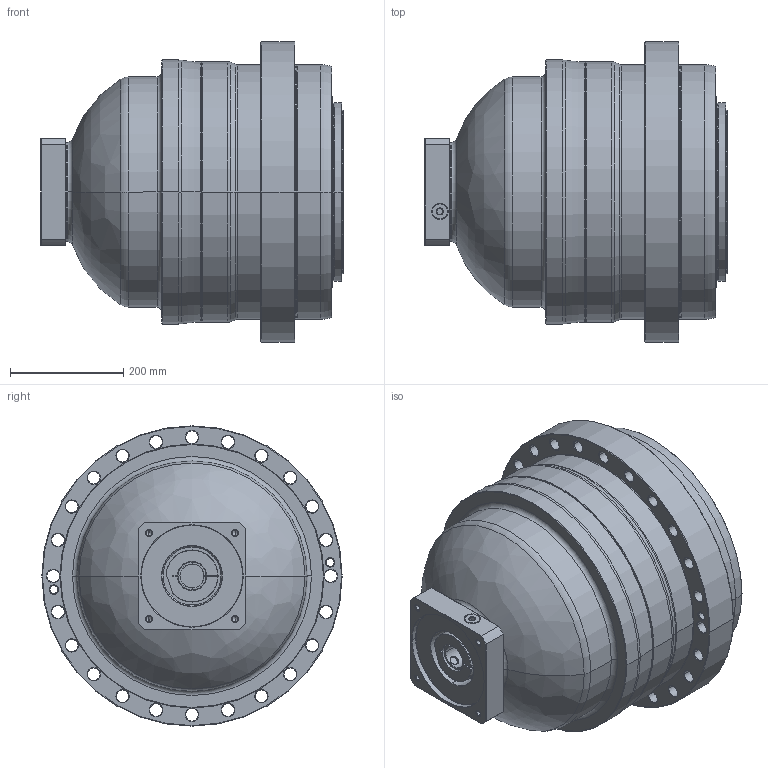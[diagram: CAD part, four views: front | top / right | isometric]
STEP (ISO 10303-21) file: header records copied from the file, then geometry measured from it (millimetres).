
FILE_DESCRIPTION((''),'2;1');
FILE_NAME('AP450_3ST_42-P0409A00201_ASM','2018-06-08T',('d01226'),(''),'PRO/ENGINEER BY PARAMETRIC TECHNOLOGY CORPORATION, 2008410','PRO/ENGINEER BY PARAMETRIC TECHNOLOGY CORPORATION, 2008410','');
FILE_SCHEMA(('CONFIG_CONTROL_DESIGN'));
Length unit declared in the file: millimetre
Products named in the file (9): P0276201003; P0357201103; P1366A00201; P0503A00012; P0912702001; P1222200001; P0409A00201; 21711422019; AP450_3ST_42-P0409A00201_ASM
Assembly tree (8 placements, depth 2):
  AP450_3ST_42-P0409A00201_ASM
    P0276201003
    P0357201103
    P1366A00201
    P0503A00012
    P0912702001
    P1222200001
    P0409A00201
    21711422019
Bounding box: 533.5 x 530 x 530 mm (x, y, z)
Volume: 53111976.1 mm3; surface area: 2066917.2 mm2
Topology: 9 solids, 31 shells, 619 faces, 1425 edges, 866 vertices
Faces by surface type: cylinder 246, cone 180, plane 97, torus 82, bspline 14
Entity records: 22387 total; most frequent: CARTESIAN_POINT 7596, DIRECTION 3409, ORIENTED_EDGE 2746, AXIS2_PLACEMENT_3D 1459, EDGE_CURVE 1417, VERTEX_POINT 866, CIRCLE 827, EDGE_LOOP 761
